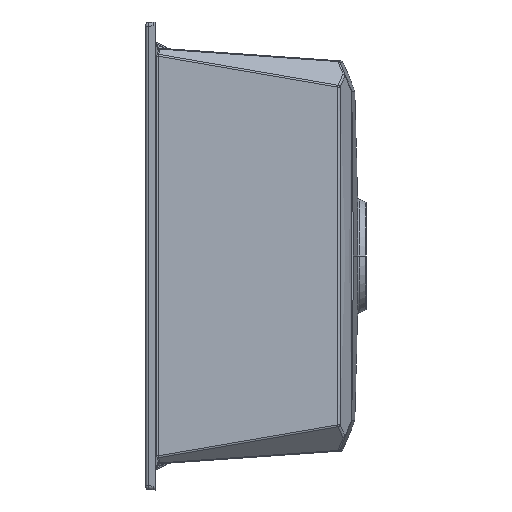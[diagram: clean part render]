
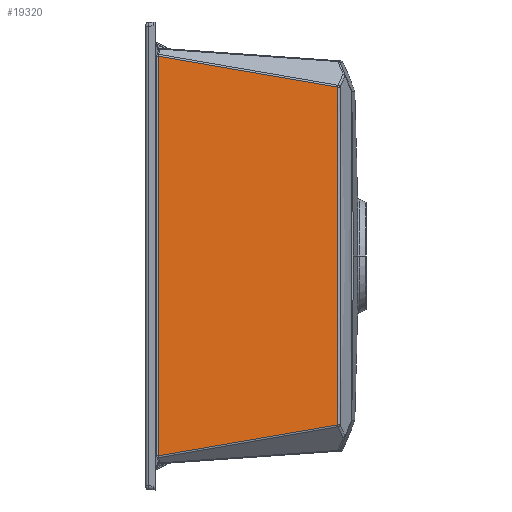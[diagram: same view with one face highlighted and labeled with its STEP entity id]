
A CAD part, left-side view. The second image highlights one B-rep face of the part: STEP entity #19320.
In plain terms, the highlighted planar face has unit normal (-0.998, -0.07, 0).
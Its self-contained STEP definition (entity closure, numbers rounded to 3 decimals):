
#677 = CARTESIAN_POINT ( 'NONE',  ( 27.947, -3.819, -36.571 ) ) ;
#2627 = VECTOR ( 'NONE', #15648, 1000. ) ;
#4834 = VERTEX_POINT ( 'NONE', #12488 ) ;
#5922 = ORIENTED_EDGE ( 'NONE', *, *, #21542, .F. ) ;
#6364 = CARTESIAN_POINT ( 'NONE',  ( 27.947, -3.819, -463.429 ) ) ;
#7810 = VERTEX_POINT ( 'NONE', #13872 ) ;
#9223 = ORIENTED_EDGE ( 'NONE', *, *, #12139, .F. ) ;
#9836 = CARTESIAN_POINT ( 'NONE',  ( 41.432, -196.67, -189.859 ) ) ;
#10173 = CARTESIAN_POINT ( 'NONE',  ( 27.947, -3.819, -465. ) ) ;
#11177 = LINE ( 'NONE', #18175, #20578 ) ;
#12139 = EDGE_CURVE ( 'NONE', #4834, #21791, #25317, .T. ) ;
#12162 = CARTESIAN_POINT ( 'NONE',  ( 27.019, 9.442, -465. ) ) ;
#12488 = CARTESIAN_POINT ( 'NONE',  ( 41.323, -195.104, -430.412 ) ) ;
#13872 = CARTESIAN_POINT ( 'NONE',  ( 41.323, -195.104, -69.588 ) ) ;
#14554 = PLANE ( 'NONE',  #33862 ) ;
#14677 = VERTEX_POINT ( 'NONE', #677 ) ;
#14799 = CARTESIAN_POINT ( 'NONE',  ( 27.464, 3.091, -464.622 ) ) ;
#14977 = CARTESIAN_POINT ( 'NONE',  ( 41.389, -196.045, -370.28 ) ) ;
#15212 = CARTESIAN_POINT ( 'NONE',  ( 41.432, -196.67, -310.141 ) ) ;
#15648 = DIRECTION ( 'NONE',  ( 0., 0., -1. ) ) ;
#17093 = DIRECTION ( 'NONE',  ( -0.069, 0.983, -0.17 ) ) ;
#17210 = VECTOR ( 'NONE', #17093, 1000. ) ;
#18175 = CARTESIAN_POINT ( 'NONE',  ( 32.044, -62.41, -46.684 ) ) ;
#19320 = ADVANCED_FACE ( 'NONE', ( #19553 ), #14554, .T. ) ;
#19553 = FACE_OUTER_BOUND ( 'NONE', #28570, .T. ) ;
#19925 = DIRECTION ( 'NONE',  ( -0.998, -0.07, 0. ) ) ;
#20578 = VECTOR ( 'NONE', #20672, 1000. ) ;
#20672 = DIRECTION ( 'NONE',  ( 0.069, -0.983, -0.17 ) ) ;
#21542 = EDGE_CURVE ( 'NONE', #7810, #4834, #26203, .T. ) ;
#21791 = VERTEX_POINT ( 'NONE', #6364 ) ;
#23057 = CARTESIAN_POINT ( 'NONE',  ( 41.323, -195.104, -430.412 ) ) ;
#25317 = LINE ( 'NONE', #14799, #17210 ) ;
#25450 = CARTESIAN_POINT ( 'NONE',  ( 41.389, -196.045, -129.721 ) ) ;
#26140 = ORIENTED_EDGE ( 'NONE', *, *, #32703, .T. ) ;
#26203 = B_SPLINE_CURVE_WITH_KNOTS ( 'NONE', 3,
 ( #27972, #25450, #9836, #15212, #14977, #23057 ),
 .UNSPECIFIED., .F., .F.,
 ( 4, 2, 4 ),
 ( 0., 0.5, 1. ),
 .UNSPECIFIED. ) ;
#26216 = EDGE_CURVE ( 'NONE', #14677, #7810, #11177, .T. ) ;
#26435 = ORIENTED_EDGE ( 'NONE', *, *, #26216, .F. ) ;
#27972 = CARTESIAN_POINT ( 'NONE',  ( 41.323, -195.104, -69.588 ) ) ;
#28570 = EDGE_LOOP ( 'NONE', ( #9223, #5922, #26435, #26140 ) ) ;
#30180 = DIRECTION ( 'NONE',  ( 0.07, -0.998, 0. ) ) ;
#32703 = EDGE_CURVE ( 'NONE', #14677, #21791, #33249, .T. ) ;
#33249 = LINE ( 'NONE', #10173, #2627 ) ;
#33862 = AXIS2_PLACEMENT_3D ( 'NONE', #12162, #19925, #30180 ) ;
